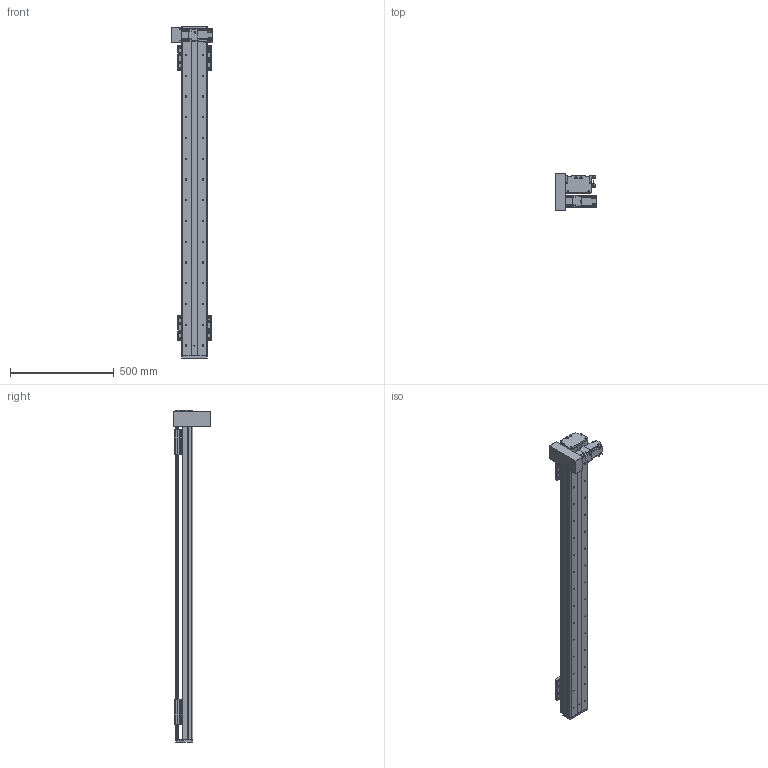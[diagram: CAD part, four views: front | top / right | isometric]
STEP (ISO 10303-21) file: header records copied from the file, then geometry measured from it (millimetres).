
FILE_DESCRIPTION(/* description */ (''),/* implementation_level */ '2;1');
FILE_NAME(/* name */ 'C:\Users\PC\Desktop\3D도면\STEP\DSB125-DL2G-W1300-R.stp',/* time_stamp */ '2018-06-21T14:52:26+09:00',/* author */ ('PC'),/* organization */ (''),/* preprocessor_version */ 'ST-DEVELOPER v16.5',/* originating_system */ 'Autodesk Inventor 2017',/* authorisation */ '');
FILE_SCHEMA (('AUTOMOTIVE_DESIGN { 1 0 10303 214 3 1 1 }'));
Length unit declared in the file: millimetre
Products named in the file (12): DSB125-L-300ST; DSR125-BASE(S-TYPE); DSR125-REAR COVER-R01(170203); DSR125-REAR COVER-R01(170203)_1; DSR125-UP COVER-R01(170203); hg-kr23_; ab0601-p0401200402; 13-BELT COVER; DSR126-SENSOR DOG; pm-y65_step; SENSOR BRACKET(EE-SX674A); DSR125-TABLE(MSA15X)
Assembly tree (16 placements, depth 2):
  DSB125-L-300ST
    DSR125-BASE(S-TYPE)
    DSR125-REAR COVER-R01(170203)
    DSR125-REAR COVER-R01(170203)_1
    DSR125-UP COVER-R01(170203)
    hg-kr23_
    ab0601-p0401200402
    13-BELT COVER
    DSR126-SENSOR DOG
    pm-y65_step  x3
    SENSOR BRACKET(EE-SX674A)  x3
    DSR125-TABLE(MSA15X)  x2
Bounding box: 202.1 x 182 x 1600 mm (x, y, z)
Volume: 5661080.5 mm3; surface area: 1629791.3 mm2
Topology: 17 solids, 22 shells, 1685 faces, 4561 edges, 3006 vertices
Faces by surface type: plane 908, cylinder 643, cone 122, sphere 8, torus 4
Full cylindrical faces by diameter (mm): 2.459 x20, 3.242 x16, 3.5 x6, 4 x1, 4.134 x16, 4.2 x4, 4.3 x1, 4.5 x50, 4.917 x20, 5 x27, 5.3 x1, 5.5 x4, 5.6 x8, 5.8 x4, 5.9 x8, 6 x4, 6.6 x22, 6.647 x32, 7.5 x32, 8.5 x8, 8.7 x1, 11 x22, 14 x1, 16 x2, 17 x1, 20 x1, 47 x1, 50 x3
Entity records: 35830 total; most frequent: CARTESIAN_POINT 6571, DIRECTION 6220, ORIENTED_EDGE 5526, EDGE_CURVE 2768, AXIS2_PLACEMENT_3D 2298, VERTEX_POINT 1977, EDGE_LOOP 1721, LINE 1624
